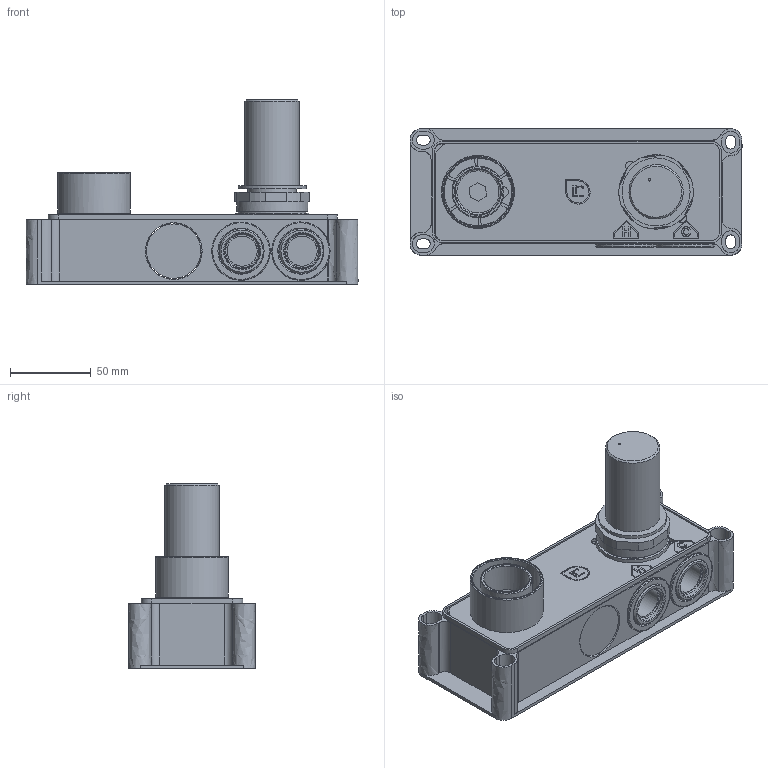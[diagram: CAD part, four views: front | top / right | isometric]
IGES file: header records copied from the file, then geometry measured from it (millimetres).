
Global section: file name: PM0000F; native system: Autodesk Inventor 2017; preprocessor: unknown; author: CIANI; date: 20210729.080107; units: millimetre
Bounding box: 205 x 78 x 114 mm (x, y, z)
Volume: 321429.9 mm3; surface area: 168399.5 mm2
Topology: 2 solids, 2 shells, 1197 faces, 3426 edges, 2238 vertices
Faces by surface type: bspline 1197
